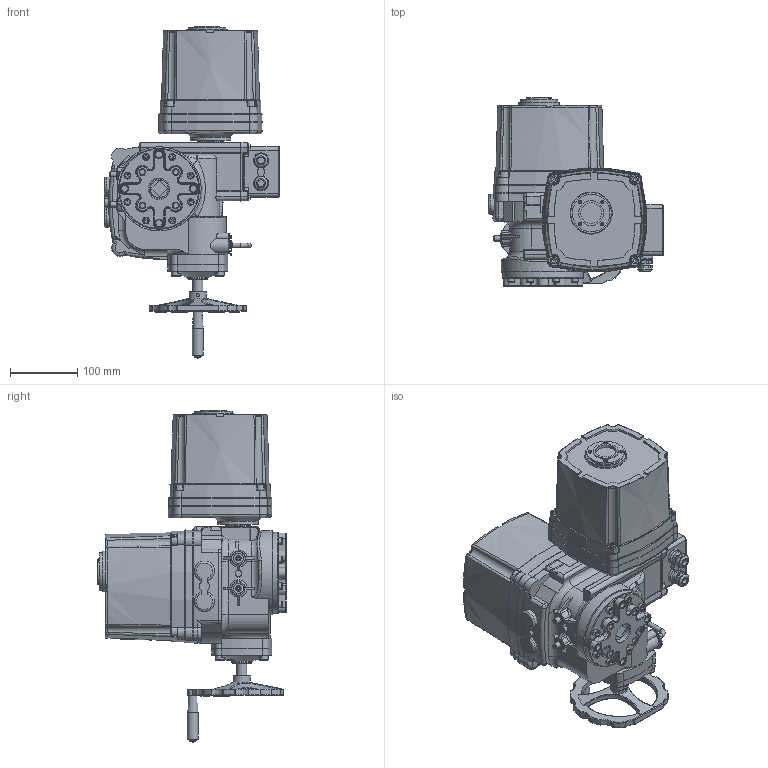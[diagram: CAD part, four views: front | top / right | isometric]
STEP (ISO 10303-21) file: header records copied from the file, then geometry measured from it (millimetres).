
FILE_DESCRIPTION(/* description */ ('D300-04903','CAx-IF Rec.Pracs.---Representation and Presentation of Product Manufacturing Information (PMI)---4.0---2014-10-13'),/* implementation_level */ '2;1');
FILE_NAME(/* name */ '',/* time_stamp */ '2026-03-31T11:33:10+03:00',/* author */ ('DN.RU'),/* organization */ ('DN.RU'),/* preprocessor_version */ 'ST-DEVELOPER v20',/* originating_system */ 'Autodesk Inventor 2025',/* authorisation */ '');
FILE_SCHEMA (('AP242_MANAGED_MODEL_BASED_3D_ENGINEERING_MIM_LF { 1 0 10303 442 1 1 4 }'));
Length unit declared in the file: millimetre
Products named in the file (1): QT-EX-020EM-O2-220VAC-У1
Bounding box: 260.35 x 280 x 493.27 mm (x, y, z)
Volume: 9662902.6 mm3; surface area: 507126.2 mm2
Topology: 1 solids, 17 shells, 3082 faces, 7930 edges, 5074 vertices
Faces by surface type: plane 1207, cylinder 663, bspline 563, torus 310, cone 235, sphere 104
Full cylindrical faces by diameter (mm): 2.224 x8, 2.5 x8, 3 x11, 5 x1, 5.5 x3, 6 x8, 7 x11, 8 x10, 9.75 x2, 10 x12, 10.41 x1, 12.75 x2, 13 x4, 15 x6, 15.889 x1, 19.486 x2, 25 x2, 28 x1, 30 x3, 30.978 x2, 37.108 x2, 37.27 x1, 37.5 x1, 55.739 x2, 60 x1, 60.598 x2, 108.591 x2, 112.893 x1, 120 x1
Entity records: 113674 total; most frequent: CARTESIAN_POINT 39295, ORIENTED_EDGE 15782, DIRECTION 13564, EDGE_CURVE 7891, AXIS2_PLACEMENT_3D 5098, VERTEX_POINT 5074, LINE 3368, VECTOR 3368
